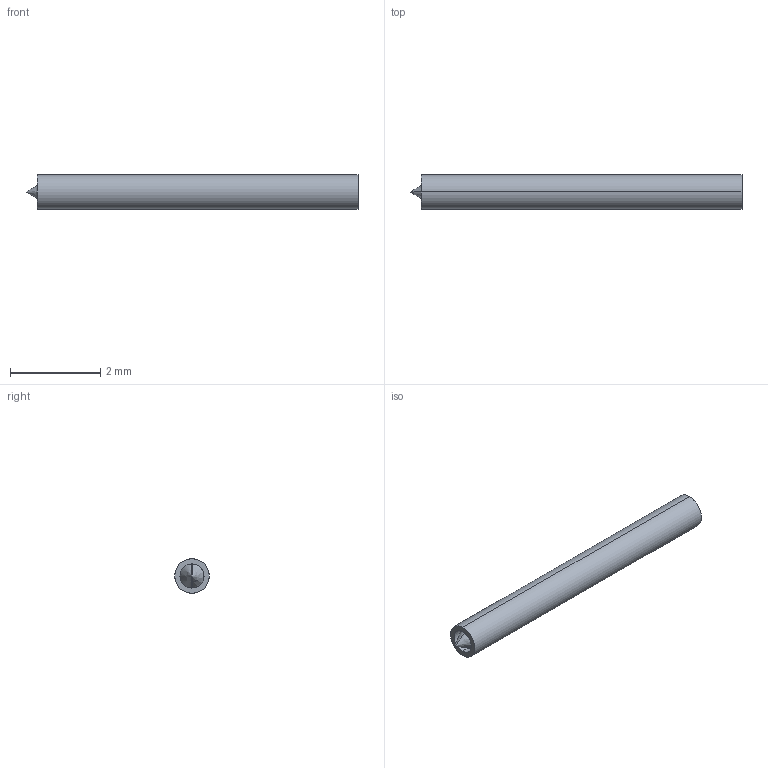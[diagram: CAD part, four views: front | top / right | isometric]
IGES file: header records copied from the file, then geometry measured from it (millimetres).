
Start section: SolidWorks IGES file using analytic representation for surfaces
Global section: file name: O:\PYLON\IGES FILES\A-A-S\A-A-S-C REC'D.IGS; native system: SolidWorks 2015; preprocessor: SolidWorks 2015; author: kgolden; date: 171023.142514; units: inch
Bounding box: 7.37 x 0.76 x 0.76 mm (x, y, z)
Surface area: 20.7 mm2 (no closed solid volume)
Topology: 0 solids, 0 shells, 11 faces, 112 edges, 110 vertices
Faces by surface type: revolution 8, bspline 3
